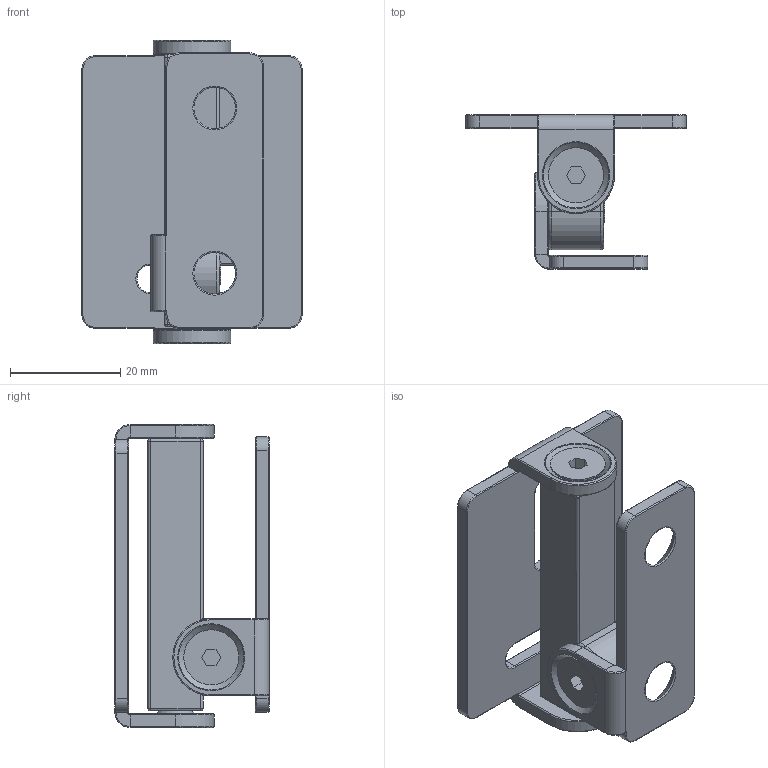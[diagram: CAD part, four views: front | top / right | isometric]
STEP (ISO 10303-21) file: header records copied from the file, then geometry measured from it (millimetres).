
FILE_DESCRIPTION(/* description */ (''),/* implementation_level */ '2;1');
FILE_NAME(/* name */ 'LB WH 10.stp',/* time_stamp */ '2024-10-17T13:14:27+02:00',/* author */ ('d.streicher'),/* organization */ (''),/* preprocessor_version */ 'ST-DEVELOPER v20',/* originating_system */ 'Autodesk Inventor 2025',/* authorisation */ '');
FILE_SCHEMA (('AUTOMOTIVE_DESIGN { 1 0 10303 214 3 1 1 }'));
Length unit declared in the file: millimetre
Products named in the file (5): LB WH 10; LB WH 1020W; LB WH 10 M; LB WH 1020 Wi; DIN 7991 - M5x12
Assembly tree (6 placements, depth 2):
  LB WH 10
    LB WH 1020W
    LB WH 10 M
    LB WH 1020 Wi
    DIN 7991 - M5x12  x3
Bounding box: 40 x 28 x 55 mm (x, y, z)
Volume: 13461.3 mm3; surface area: 11548.5 mm2
Topology: 6 solids, 6 shells, 280 faces, 633 edges, 368 vertices
Faces by surface type: cylinder 103, plane 87, torus 58, cone 16, bspline 8, sphere 8
Full cylindrical faces by diameter (mm): 5 x6, 10 x3
Entity records: 7474 total; most frequent: CARTESIAN_POINT 1459, DIRECTION 1367, ORIENTED_EDGE 1134, EDGE_CURVE 567, AXIS2_PLACEMENT_3D 554, VERTEX_POINT 326, CIRCLE 290, EDGE_LOOP 271
